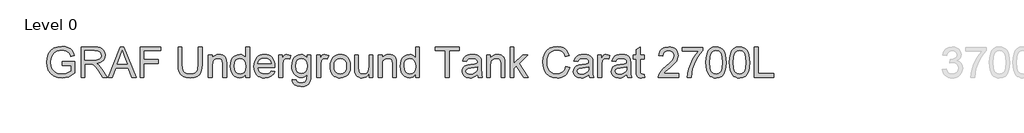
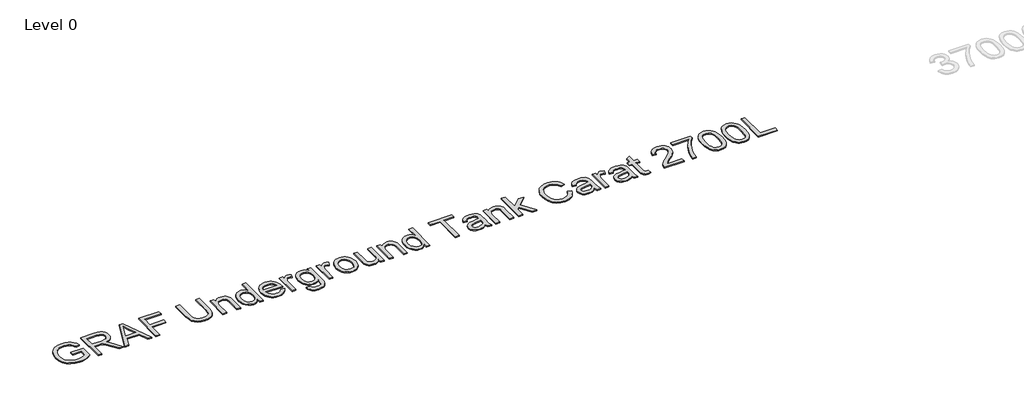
# One storey, part 17 of 19: 1 proxy.
"""IFC4 building model written with IfcOpenShell, lengths in millimetres."""

from ifc_helpers import new_model, si_unit, origin, origin_with_axes, place, context, project, spatial, polyline, outline, extrude, element, save

model = new_model("IFC4")

# Units and contexts
model_context = context("Model", 3, world=origin())
ifc_project = project(units=[si_unit("LENGTHUNIT", "METRE", prefix="MILLI")], contexts=[model_context])

# Site, building, storey
site = spatial("IfcSite", under=ifc_project)
building = spatial("IfcBuilding", under=site)
storey = spatial("IfcBuildingStorey", under=building, Name="Level 0", Elevation=0.0)

# Proxy
placement = place(None, origin())
element("IfcBuildingElementProxy", 1, Name="300mm Arial", ObjectType="300mm Arial", at=placement, inside=storey, context=model_context, shape_type="SweptSolid", body=[
    extrude(outline(polyline([(-14980.9940387, 9416.7454403), (-14980.9940387, 9454.4165566), (-14858.5629107, 9454.4165566), (-14858.5629107, 9341.7710897), (-14888.3153671, 9321.0777274), (-14919.0059225, 9306.2336889), (-14950.5610007, 9297.2941564), (-14982.9070251, 9294.3143123), (-15025.1674693, 9299.050793), (-15063.3628175, 9313.260235), (-15095.0926395, 9336.4459978), (-15117.9565055, 9368.1114405), (-15131.7796715, 9406.0952565), (-15136.3873935, 9448.2361391), (-15131.7980656, 9490.6805243), (-15118.0300819, 9530.1634594), (-15095.6536596, 9563.282036), (-15065.2390156, 9586.6333457), (-15028.1932987, 9600.4841028), (-14985.9236575, 9605.1010218), (-14954.8928112, 9602.4246803), (-14926.9889618, 9594.3956557), (-14903.4904994, 9581.5933623), (-14885.6758138, 9564.5972141), (-14872.4964413, 9542.5886738), (-14862.9039183, 9514.7492038), (-14897.6319786, 9504.9635427), (-14905.3850917, 9524.8199734), (-14914.8120678, 9539.8019677), (-14927.2832674, 9551.0959449), (-14944.169051, 9559.8883246), (-14964.3013932, 9565.5445103), (-14986.5122687, 9567.4299055), (-15012.5123287, 9565.3973575), (-15034.7415982, 9559.2997134), (-15053.1173039, 9549.9003284), (-15067.5566722, 9537.9625577), (-15086.9440533, 9508.9366683), (-15095.7732212, 9480.49939), (-15098.7162772, 9449.7812434), (-15095.175413, 9413.7563991), (-15084.5528204, 9384.1143073), (-15067.1703961, 9361.0665003), (-15043.3500369, 9344.8245102), (-15015.4737787, 9335.195199), (-14985.9236575, 9331.9854286), (-14959.831627, 9334.4042527), (-14934.3833899, 9341.6607251), (-14912.2828791, 9351.6579183), (-14896.234027, 9362.298905), (-14896.234027, 9416.7454403), (-14980.9940387, 9416.7454403)])), origin_with_axes(), (0.0, 0.0, 1.0), 10.0),
    extrude(outline(polyline([(-14797.3473467, 9299.0232018), (-14797.3473467, 9600.3921323), (-14667.4850024, 9600.3921323), (-14632.5821982, 9598.3595842), (-14607.1891434, 9592.2619402), (-14588.6294968, 9581.0047511), (-14574.2269167, 9563.4935682), (-14564.9838815, 9541.7793334), (-14561.9028698, 9517.912989), (-14567.0072325, 9488.2249119), (-14582.3203206, 9463.6136065), (-14593.9200997, 9453.5842236), (-14608.3019865, 9445.5689946), (-14645.4120827, 9435.5809984), (-14624.0013506, 9419.467767), (-14593.467145, 9380.6930048), (-14543.2144645, 9299.0232018), (-14586.9924219, 9299.0232018), (-14626.2086426, 9361.4895646), (-14654.5355562, 9402.8395009), (-14674.4379722, 9422.3740348), (-14692.3538253, 9429.5477337), (-14714.2060158, 9430.8721089), (-14759.6762304, 9430.8721089), (-14759.6762304, 9299.0232018), (-14797.3473467, 9299.0232018)]), holes=[polyline([(-14759.6762304, 9468.5432252), (-14675.3576771, 9468.5432252), (-14651.1418448, 9469.8767974), (-14632.3522719, 9473.8775141), (-14618.2072092, 9480.8120897), (-14607.9249074, 9490.9472387), (-14601.6617165, 9503.2069062), (-14599.5739861, 9516.5150374), (-14603.5563087, 9534.890743), (-14615.5032765, 9549.6979933), (-14636.058683, 9559.4652603), (-14665.8663217, 9562.721016), (-14759.6762304, 9562.721016), (-14759.6762304, 9468.5432252)])]), origin_with_axes(), (0.0, 0.0, 1.0), 10.0),
    extrude(outline(polyline([(-14531.0743586, 9299.0232018), (-14410.7769462, 9600.3921323), (-14378.6976362, 9600.3921323), (-14258.4002238, 9299.0232018), (-14298.2050557, 9299.0232018), (-14332.7123868, 9393.2009926), (-14456.835772, 9393.2009926), (-14491.2695268, 9299.0232018), (-14531.0743586, 9299.0232018)]), holes=[polyline([(-14443.003409, 9430.8721089), (-14346.4711735, 9430.8721089), (-14373.6208647, 9504.9635427), (-14394.7372912, 9562.721016), (-14413.499273, 9511.4382658), (-14443.003409, 9430.8721089)])]), origin_with_axes(), (0.0, 0.0, 1.0), 10.0),
    extrude(outline(polyline([(-14218.1539335, 9299.0232018), (-14218.1539335, 9600.3921323), (-14015.6716834, 9600.3921323), (-14015.6716834, 9562.721016), (-14180.4828172, 9562.721016), (-14180.4828172, 9473.2521147), (-14039.2161311, 9473.2521147), (-14039.2161311, 9435.5809984), (-14180.4828172, 9435.5809984), (-14180.4828172, 9299.0232018), (-14218.1539335, 9299.0232018)])), origin_with_axes(), (0.0, 0.0, 1.0), 10.0),
    extrude(outline(polyline([(-13648.3782994, 9600.3921323), (-13610.7071831, 9600.3921323), (-13610.7071831, 9426.5311014), (-13613.263963, 9385.8157615), (-13620.9343026, 9354.4630185), (-13635.2633063, 9330.2747773), (-13657.7960785, 9311.0529431), (-13688.5878015, 9298.49897), (-13727.6936576, 9294.3143123), (-13765.944188, 9297.956344), (-13796.5243789, 9308.8824393), (-13819.4434272, 9326.715519), (-13834.71053, 9351.0785041), (-13843.2913775, 9383.7556224), (-13846.15166, 9426.5311014), (-13846.15166, 9600.3921323), (-13808.4805437, 9600.3921323), (-13808.4805437, 9427.8554765), (-13806.6227396, 9394.0011359), (-13801.0493274, 9370.4290971), (-13790.9509666, 9354.1043335), (-13775.5183169, 9341.9918189), (-13755.3951718, 9334.4870262), (-13731.2253247, 9331.9854286), (-13692.9104149, 9336.9334414), (-13678.5676156, 9343.1184575), (-13667.4345868, 9351.7774799), (-13659.097461, 9363.954374), (-13653.1423712, 9380.6930048), (-13648.3782994, 9427.8554765), (-13648.3782994, 9600.3921323)])), origin_with_axes(), (0.0, 0.0, 1.0), 10.0),
    extrude(outline(polyline([(-13549.4916191, 9299.0232018), (-13549.4916191, 9520.3410101), (-13511.8205028, 9520.3410101), (-13511.8205028, 9489.4389225), (-13498.7331008, 9505.018725), (-13483.0153426, 9516.1471554), (-13464.6672281, 9522.8242136), (-13443.6887573, 9525.0498997), (-13425.1199136, 9523.2564749), (-13408.1145684, 9517.8762008), (-13393.9327174, 9509.5804618), (-13383.8343567, 9499.0406426), (-13372.5403794, 9471.3391284), (-13370.5538166, 9434.9188108), (-13370.5538166, 9299.0232018), (-13408.224933, 9299.0232018), (-13408.224933, 9429.8420393), (-13412.5659405, 9463.1721481), (-13418.5716141, 9473.0957649), (-13427.9066197, 9480.7936956), (-13439.8719816, 9485.7325114), (-13453.768724, 9487.3787834), (-13475.8324466, 9483.6815693), (-13494.6404136, 9472.5899271), (-13502.1567026, 9463.5354315), (-13507.5254805, 9451.1608009), (-13511.8205028, 9416.4511347), (-13511.8205028, 9299.0232018), (-13549.4916191, 9299.0232018)])), origin_with_axes(), (0.0, 0.0, 1.0), 10.0),
    extrude(outline(polyline([(-13182.1982351, 9299.0232018), (-13182.1982351, 9334.5606026), (-13193.4692197, 9316.9528506), (-13207.1222403, 9304.3758849), (-13223.1572968, 9296.8297054), (-13241.5743891, 9294.3143123), (-13265.9281772, 9297.956344), (-13288.2218261, 9308.8824393), (-13307.0941725, 9326.3292429), (-13321.1840529, 9349.5333998), (-13329.9580385, 9377.5568107), (-13332.8827003, 9409.4613768), (-13330.1879647, 9440.9704697), (-13322.1037579, 9469.426142), (-13308.6392769, 9493.209713), (-13289.8037187, 9510.7025018), (-13267.0226262, 9521.4630502), (-13241.7215419, 9525.0498997), (-13223.290654, 9522.4839227), (-13206.9934816, 9514.785992), (-13193.1795127, 9502.986177), (-13182.1982351, 9488.1145473), (-13182.1982351, 9600.3921323), (-13144.5271188, 9600.3921323), (-13144.5271188, 9299.0232018), (-13182.1982351, 9299.0232018)]), holes=[polyline([(-13295.211584, 9409.6085296), (-13290.962547, 9375.5334598), (-13278.2154359, 9351.2992333), (-13259.6925774, 9336.8138798), (-13238.1162984, 9331.9854286), (-13216.5492164, 9336.5931506), (-13198.4954075, 9350.4163165), (-13186.2725282, 9373.7124439), (-13182.1982351, 9406.73905), (-13186.3461046, 9442.8466678), (-13198.7897131, 9467.8810376), (-13217.3033745, 9482.5043469), (-13239.6614028, 9487.3787834), (-13261.458411, 9482.697485), (-13279.3190818, 9468.6535898), (-13291.2384585, 9444.529728), (-13295.211584, 9409.6085296)])]), origin_with_axes(), (0.0, 0.0, 1.0), 10.0),
    extrude(outline(polyline([(-12933.068548, 9364.9476554), (-12896.1331957, 9360.2387658), (-12909.4413268, 9332.4084929), (-12930.677315, 9311.6047661), (-12959.3629136, 9298.6369257), (-12995.019876, 9294.3143123), (-13018.3941782, 9296.1790141), (-13039.2208977, 9301.7731197), (-13057.5000343, 9311.0966291), (-13073.2315881, 9324.1495421), (-13085.8821303, 9340.5685754), (-13094.9182318, 9359.9904455), (-13100.3398927, 9382.4151523), (-13102.147113, 9407.842696), (-13100.3214986, 9434.1324631), (-13094.8446554, 9457.3044302), (-13085.7165834, 9477.3585975), (-13072.9372826, 9494.2949649), (-13057.2471155, 9507.7502488), (-13039.3864446, 9517.361166), (-13019.35527, 9523.1277162), (-12997.1535915, 9525.0498997), (-12975.6669838, 9523.1323148), (-12956.2359166, 9517.3795601), (-12938.8603901, 9507.7916356), (-12923.5404043, 9494.3685413), (-12911.0347157, 9477.4689621), (-12902.102081, 9457.451583), (-12896.7425002, 9434.3164041), (-12894.9559733, 9408.0634252), (-12895.1767025, 9397.9098821), (-13064.4759967, 9397.9098821), (-13057.9552883, 9369.7117272), (-13042.8077471, 9348.9815768), (-13020.9463596, 9336.2344656), (-12994.284112, 9331.9854286), (-12974.2345432, 9333.9535973), (-12957.3487597, 9339.8581033), (-12943.6267612, 9350.0668287), (-12933.068548, 9364.9476554)]), holes=[polyline([(-13064.4759967, 9435.5809984), (-12932.6270896, 9435.5809984), (-12937.7222552, 9455.4834144), (-12947.7102514, 9469.7204476), (-12969.6728065, 9482.9641994), (-12997.3007443, 9487.3787834), (-13022.6937991, 9483.8563132), (-13043.6906639, 9473.2889029), (-13058.2863821, 9456.8169866), (-13064.4759967, 9435.5809984)])]), origin_with_axes(), (0.0, 0.0, 1.0), 10.0),
    extrude(outline(polyline([(-12857.284857, 9299.0232018), (-12857.284857, 9520.3410101), (-12824.3226302, 9520.3410101), (-12824.3226302, 9487.5995125), (-12812.1457362, 9506.5822235), (-12800.9253353, 9517.7658362), (-12789.6681463, 9523.2288838), (-12777.3808876, 9525.0498997), (-12758.6189059, 9522.1436319), (-12739.5626185, 9513.4248286), (-12752.1441828, 9479.6532615), (-12765.3879346, 9485.4474029), (-12778.6316864, 9487.3787834), (-12789.8796784, 9485.5209793), (-12799.9320539, 9479.947567), (-12808.053049, 9471.081611), (-12813.5068996, 9459.3461753), (-12818.0870304, 9438.3033252), (-12819.6137407, 9415.3474887), (-12819.6137407, 9299.0232018), (-12857.284857, 9299.0232018)])), origin_with_axes(), (0.0, 0.0, 1.0), 10.0),
    extrude(outline(polyline([(-12725.4359499, 9280.1876437), (-12687.7648336, 9275.4787541), (-12683.6077671, 9263.7065303), (-12675.5511514, 9255.6131264), (-12659.7138315, 9249.3223443), (-12638.983681, 9247.2254169), (-12616.8739731, 9249.5982558), (-12600.4296479, 9256.7167724), (-12589.0253061, 9268.1211142), (-12582.0355482, 9283.3514288), (-12579.4603742, 9327.2765391), (-12591.9959532, 9314.915704), (-12605.9846661, 9306.0865361), (-12621.4265128, 9300.7890354), (-12638.3214935, 9299.0232018), (-12658.9757682, 9301.0787425), (-12677.1606351, 9307.2453644), (-12692.8760941, 9317.5230677), (-12706.1221452, 9331.9118522), (-12716.6320739, 9349.1747148), (-12724.1391659, 9368.0746523), (-12728.6434211, 9388.6116647), (-12730.1448394, 9410.785752), (-12727.4501038, 9441.2003959), (-12719.365897, 9469.1686246), (-12706.1773275, 9492.8694221), (-12688.1695038, 9510.4817726), (-12665.9586283, 9521.4078679), (-12640.1609034, 9525.0498997), (-12622.5439544, 9522.9897605), (-12606.5548832, 9516.809343), (-12592.1936898, 9506.5086471), (-12579.4603742, 9492.0876729), (-12579.4603742, 9520.3410101), (-12541.7892579, 9520.3410101), (-12541.7892579, 9329.2631018), (-12544.3644319, 9285.1448536), (-12552.0899538, 9256.091373), (-12565.398085, 9236.8235535), (-12584.7210868, 9222.0622884), (-12609.6358949, 9212.6812976), (-12639.719445, 9209.5543006), (-12674.7694021, 9213.9596875), (-12702.3697488, 9227.1758482), (-12712.7647144, 9237.0971657), (-12720.0740698, 9249.2395708), (-12724.297815, 9263.6030635), (-12725.4359499, 9280.1876437)]), holes=[polyline([(-12692.4737231, 9413.3609259), (-12688.4546123, 9378.8076095), (-12676.39728, 9355.0516297), (-12658.2698946, 9341.283646), (-12636.0406251, 9336.6943181), (-12613.9769024, 9341.2560549), (-12595.7575466, 9354.9412651), (-12583.5346673, 9378.3937423), (-12579.4603742, 9412.2572799), (-12583.654229, 9444.9160041), (-12596.2357932, 9468.4328606), (-12614.7218635, 9482.6423027), (-12636.6292363, 9487.3787834), (-12658.1411359, 9482.7158791), (-12676.1765508, 9468.7271662), (-12688.39943, 9445.5597976), (-12692.4737231, 9413.3609259)])]), origin_with_axes(), (0.0, 0.0, 1.0), 10.0),
    extrude(outline(polyline([(-12485.2825835, 9299.0232018), (-12485.2825835, 9520.3410101), (-12452.3203567, 9520.3410101), (-12452.3203567, 9487.5995125), (-12440.1434626, 9506.5822235), (-12428.9230618, 9517.7658362), (-12417.6658727, 9523.2288838), (-12405.3786141, 9525.0498997), (-12386.6166324, 9522.1436319), (-12367.560345, 9513.4248286), (-12380.1419092, 9479.6532615), (-12393.3856611, 9485.4474029), (-12406.6294129, 9487.3787834), (-12417.8774049, 9485.5209793), (-12427.9297804, 9479.947567), (-12436.0507755, 9471.081611), (-12441.504626, 9459.3461753), (-12446.0847569, 9438.3033252), (-12447.6114672, 9415.3474887), (-12447.6114672, 9299.0232018), (-12485.2825835, 9299.0232018)])), origin_with_axes(), (0.0, 0.0, 1.0), 10.0),
    extrude(outline(polyline([(-12353.4336764, 9409.682106), (-12351.3965298, 9438.3447119), (-12345.2850902, 9463.0433894), (-12335.0993575, 9483.7781383), (-12320.8393316, 9500.5489588), (-12306.4827368, 9511.2681204), (-12290.6362198, 9518.9246644), (-12273.2997808, 9523.5185909), (-12254.4734197, 9525.0498997), (-12233.6903862, 9523.1851978), (-12214.8985141, 9517.5910922), (-12198.0978032, 9508.2675829), (-12183.2882536, 9495.2146698), (-12171.2010308, 9478.8738115), (-12162.5673002, 9459.6864662), (-12157.3870619, 9437.6526339), (-12155.6603158, 9412.7723147), (-12158.7137363, 9374.7149223), (-12167.873998, 9345.7442152), (-12182.8743864, 9324.0483745), (-12203.448187, 9307.8155815), (-12227.8847485, 9297.6896296), (-12254.4734197, 9294.3143123), (-12275.5599558, 9296.1721164), (-12294.5265719, 9301.7455286), (-12311.373268, 9311.034549), (-12326.1000441, 9324.0391775), (-12338.0585082, 9340.538685), (-12346.6002683, 9360.3123422), (-12351.7253244, 9383.3601492), (-12353.4336764, 9409.682106)]), holes=[polyline([(-12315.7625601, 9409.7556824), (-12311.4031584, 9375.6622185), (-12298.3249535, 9351.3728097), (-12278.6432668, 9336.8322739), (-12254.4734197, 9331.9854286), (-12230.4139372, 9336.859865), (-12210.7690387, 9351.4831743), (-12197.6908337, 9376.0944798), (-12193.3314321, 9410.9329048), (-12197.7184249, 9444.0330873), (-12210.8794033, 9467.9914022), (-12230.5518929, 9482.5319381), (-12254.4734197, 9487.3787834), (-12278.6432668, 9482.5503322), (-12298.3249535, 9468.0649786), (-12311.4031584, 9443.8307522), (-12315.7625601, 9409.7556824)])]), origin_with_axes(), (0.0, 0.0, 1.0), 10.0),
    extrude(outline(polyline([(-11972.0136238, 9299.0232018), (-11972.0136238, 9337.0622001), (-11985.6436517, 9318.3599992), (-12001.5177598, 9305.0012842), (-12019.6359481, 9296.9860553), (-12039.9982165, 9294.3143123), (-12058.346331, 9296.1905105), (-12075.4252526, 9301.819105), (-12089.7542563, 9310.2803909), (-12099.8526171, 9320.6546631), (-12111.073018, 9348.3929656), (-12113.2803099, 9383.4153315), (-12113.2803099, 9520.3410101), (-12075.6091936, 9520.3410101), (-12075.6091936, 9401.1472437), (-12073.3283253, 9362.7403634), (-12067.8376865, 9349.9288729), (-12058.4291045, 9340.1891971), (-12045.7279786, 9334.0363707), (-12030.3597082, 9331.9854286), (-12014.1085211, 9334.082356), (-11998.9057976, 9340.3731381), (-11986.3702186, 9350.2783608), (-11978.1204649, 9363.21861), (-11973.5403341, 9380.9413251), (-11972.0136238, 9405.1939456), (-11972.0136238, 9520.3410101), (-11934.3425075, 9520.3410101), (-11934.3425075, 9299.0232018), (-11972.0136238, 9299.0232018)])), origin_with_axes(), (0.0, 0.0, 1.0), 10.0),
    extrude(outline(polyline([(-11882.5447226, 9299.0232018), (-11882.5447226, 9520.3410101), (-11844.8736063, 9520.3410101), (-11844.8736063, 9489.4389225), (-11831.7862043, 9505.018725), (-11816.068446, 9516.1471554), (-11797.7203315, 9522.8242136), (-11776.7418607, 9525.0498997), (-11758.173017, 9523.2564749), (-11741.1676718, 9517.8762008), (-11726.9858209, 9509.5804618), (-11716.8874601, 9499.0406426), (-11705.5934829, 9471.3391284), (-11703.6069201, 9434.9188108), (-11703.6069201, 9299.0232018), (-11741.2780364, 9299.0232018), (-11741.2780364, 9429.8420393), (-11745.619044, 9463.1721481), (-11751.6247175, 9473.0957649), (-11760.9597232, 9480.7936956), (-11772.925085, 9485.7325114), (-11786.8218274, 9487.3787834), (-11808.8855501, 9483.6815693), (-11827.6935171, 9472.5899271), (-11835.2098061, 9463.5354315), (-11840.578584, 9451.1608009), (-11844.8736063, 9416.4511347), (-11844.8736063, 9299.0232018), (-11882.5447226, 9299.0232018)])), origin_with_axes(), (0.0, 0.0, 1.0), 10.0),
    extrude(outline(polyline([(-11515.2513386, 9299.0232018), (-11515.2513386, 9334.5606026), (-11526.5223232, 9316.9528506), (-11540.1753437, 9304.3758849), (-11556.2104002, 9296.8297054), (-11574.6274926, 9294.3143123), (-11598.9812807, 9297.956344), (-11621.2749296, 9308.8824393), (-11640.1472759, 9326.3292429), (-11654.2371564, 9349.5333998), (-11663.0111419, 9377.5568107), (-11665.9358038, 9409.4613768), (-11663.2410682, 9440.9704697), (-11655.1568613, 9469.426142), (-11641.6923803, 9493.209713), (-11622.8568222, 9510.7025018), (-11600.0757296, 9521.4630502), (-11574.7746454, 9525.0498997), (-11556.3437574, 9522.4839227), (-11540.046585, 9514.785992), (-11526.2326161, 9502.986177), (-11515.2513386, 9488.1145473), (-11515.2513386, 9600.3921323), (-11477.5802223, 9600.3921323), (-11477.5802223, 9299.0232018), (-11515.2513386, 9299.0232018)]), holes=[polyline([(-11628.2646875, 9409.6085296), (-11624.0156504, 9375.5334598), (-11611.2685393, 9351.2992333), (-11592.7456809, 9336.8138798), (-11571.1694018, 9331.9854286), (-11549.6023199, 9336.5931506), (-11531.548511, 9350.4163165), (-11519.3256317, 9373.7124439), (-11515.2513386, 9406.73905), (-11519.3992081, 9442.8466678), (-11531.8428166, 9467.8810376), (-11550.356478, 9482.5043469), (-11572.7145062, 9487.3787834), (-11594.5115144, 9482.697485), (-11612.3721853, 9468.6535898), (-11624.2915619, 9444.529728), (-11628.2646875, 9409.6085296)])]), origin_with_axes(), (0.0, 0.0, 1.0), 10.0),
    extrude(outline(polyline([(-11223.3001872, 9299.0232018), (-11223.3001872, 9562.721016), (-11322.1868675, 9562.721016), (-11322.1868675, 9600.3921323), (-11086.7423906, 9600.3921323), (-11086.7423906, 9562.721016), (-11185.6290709, 9562.721016), (-11185.6290709, 9299.0232018), (-11223.3001872, 9299.0232018)])), origin_with_axes(), (0.0, 0.0, 1.0), 10.0),
    extrude(outline(polyline([(-10907.8045881, 9327.2765391), (-10925.8032148, 9311.8438894), (-10944.3352703, 9301.7455286), (-10963.823819, 9296.1721164), (-10984.6919251, 9294.3143123), (-11016.1734269, 9298.7840785), (-11039.3959778, 9312.1933772), (-11053.7157845, 9332.5556457), (-11058.4890534, 9357.8843211), (-11056.6864316, 9373.5009117), (-11051.2785663, 9387.6827627), (-11042.936842, 9399.8228685), (-11032.3326435, 9409.314224), (-11005.9555045, 9421.675059), (-10973.3611597, 9427.3404417), (-10934.8439148, 9433.3001301), (-10908.0253173, 9440.289888), (-10907.8045881, 9448.6775975), (-10910.3981562, 9465.4898046), (-10918.1788604, 9476.4894763), (-10935.5796788, 9484.6564566), (-10959.8231023, 9487.3787834), (-10982.263904, 9485.5669645), (-10997.935677, 9480.131508), (-11008.6226489, 9470.0791325), (-11016.1090475, 9454.4165566), (-11053.7801638, 9459.1254461), (-11047.2410614, 9479.7268379), (-11037.4829914, 9495.9136456), (-11023.5954461, 9508.2928748), (-11004.6679175, 9517.4715306), (-10981.5189429, 9523.1553074), (-10954.9670599, 9525.0498997), (-10929.5004288, 9523.3760366), (-10909.3129043, 9518.3544473), (-10894.0917868, 9510.8036694), (-10883.5243765, 9501.5422402), (-10876.5162244, 9490.0919131), (-10871.9728818, 9475.9744415), (-10870.1334718, 9443.0122147), (-10870.1334718, 9396.1440485), (-10868.2204855, 9330.6978416), (-10860.7156928, 9299.0232018), (-10898.3868091, 9299.0232018), (-10907.8045881, 9327.2765391)]), holes=[polyline([(-10907.8045881, 9402.6187717), (-10968.5786937, 9391.067277), (-11000.9890975, 9384.9604359), (-11015.6675891, 9375.027622), (-11020.8179371, 9360.5330714), (-11018.0128368, 9349.3310647), (-11009.5975362, 9340.1524089), (-10995.7559761, 9334.0271737), (-10976.6720976, 9331.9854286), (-10956.4385879, 9334.2387058), (-10938.5595229, 9340.9985375), (-10924.0649723, 9350.9589425), (-10913.9850057, 9362.8139398), (-10909.5152394, 9375.027622), (-10908.0253173, 9391.9501938), (-10907.8045881, 9402.6187717)])]), origin_with_axes(), (0.0, 0.0, 1.0), 10.0),
    extrude(outline(polyline([(-10818.3356869, 9299.0232018), (-10818.3356869, 9520.3410101), (-10780.6645706, 9520.3410101), (-10780.6645706, 9489.4389225), (-10767.5771686, 9505.018725), (-10751.8594104, 9516.1471554), (-10733.5112959, 9522.8242136), (-10712.5328251, 9525.0498997), (-10693.9639814, 9523.2564749), (-10676.9586362, 9517.8762008), (-10662.7767853, 9509.5804618), (-10652.6784245, 9499.0406426), (-10641.3844472, 9471.3391284), (-10639.3978845, 9434.9188108), (-10639.3978845, 9299.0232018), (-10677.0690008, 9299.0232018), (-10677.0690008, 9429.8420393), (-10681.4100083, 9463.1721481), (-10687.4156819, 9473.0957649), (-10696.7506875, 9480.7936956), (-10708.7160494, 9485.7325114), (-10722.6127918, 9487.3787834), (-10744.6765144, 9483.6815693), (-10763.4844814, 9472.5899271), (-10771.0007704, 9463.5354315), (-10776.3695483, 9451.1608009), (-10780.6645706, 9416.4511347), (-10780.6645706, 9299.0232018), (-10818.3356869, 9299.0232018)])), origin_with_axes(), (0.0, 0.0, 1.0), 10.0),
    extrude(outline(polyline([(-10587.6000995, 9299.0232018), (-10587.6000995, 9600.3921323), (-10549.9289832, 9600.3921323), (-10549.9289832, 9438.450478), (-10465.4632771, 9520.3410101), (-10413.3711866, 9520.3410101), (-10498.8669623, 9437.4204084), (-10408.6622971, 9299.0232018), (-10452.6609837, 9299.0232018), (-10525.8695007, 9411.2272104), (-10549.9289832, 9387.9034919), (-10549.9289832, 9299.0232018), (-10587.6000995, 9299.0232018)])), origin_with_axes(), (0.0, 0.0, 1.0), 10.0),
    extrude(outline(polyline([(-10041.3689131, 9406.1504388), (-10003.6977968, 9396.4383541), (-10011.1520057, 9373.0111688), (-10021.0802211, 9352.5408351), (-10033.4824428, 9335.0273528), (-10048.358671, 9320.4707221), (-10065.3732133, 9309.0272928), (-10084.1903773, 9300.8534147), (-10104.8101632, 9295.9490879), (-10127.2325708, 9294.3143123), (-10170.9277547, 9299.2623251), (-10205.6282239, 9314.1063636), (-10232.2260922, 9338.331393), (-10251.6134733, 9371.4223785), (-10263.4500765, 9410.3258995), (-10267.3956109, 9451.9885354), (-10262.9350417, 9495.9320397), (-10249.5533342, 9533.8790675), (-10227.949464, 9564.6248053), (-10198.822407, 9586.9644394), (-10164.2782877, 9600.5668762), (-10126.4232304, 9605.1010218), (-10085.1192794, 9599.233304), (-10067.1505432, 9591.8986567), (-10050.9706332, 9581.6301505), (-10036.8462638, 9568.6990984), (-10025.0441496, 9553.3768133), (-10008.4066863, 9515.5585442), (-10046.0778026, 9506.5822235), (-10059.1376135, 9534.0538115), (-10076.9798902, 9552.8985667), (-10099.8253621, 9563.7970708), (-10127.8947584, 9567.4299055), (-10160.2499798, 9563.4015977), (-10186.829454, 9551.3166741), (-10206.9985844, 9532.4443278), (-10220.1227746, 9508.0537515), (-10227.3240646, 9480.4809959), (-10229.7244946, 9452.0621118), (-10226.8826062, 9417.2604751), (-10218.356941, 9387.1677279), (-10203.8256022, 9362.9335014), (-10182.966693, 9345.707427), (-10157.9599144, 9335.4159282), (-10130.9849671, 9331.9854286), (-10099.5402536, 9336.6575299), (-10073.3378585, 9350.6738339), (-10053.5550042, 9373.8871878), (-10041.3689131, 9406.1504388)])), origin_with_axes(), (0.0, 0.0, 1.0), 10.0),
    extrude(outline(polyline([(-9815.3422153, 9327.2765391), (-9833.3408419, 9311.8438894), (-9851.8728974, 9301.7455286), (-9871.3614461, 9296.1721164), (-9892.2295523, 9294.3143123), (-9923.711054, 9298.7840785), (-9946.9336049, 9312.1933772), (-9961.2534116, 9332.5556457), (-9966.0266805, 9357.8843211), (-9964.2240587, 9373.5009117), (-9958.8161934, 9387.6827627), (-9950.4744691, 9399.8228685), (-9939.8702706, 9409.314224), (-9913.4931316, 9421.675059), (-9880.8987868, 9427.3404417), (-9842.3815419, 9433.3001301), (-9815.5629445, 9440.289888), (-9815.3422153, 9448.6775975), (-9817.9357833, 9465.4898046), (-9825.7164875, 9476.4894763), (-9843.1173059, 9484.6564566), (-9867.3607294, 9487.3787834), (-9889.8015311, 9485.5669645), (-9905.4733041, 9480.131508), (-9916.160276, 9470.0791325), (-9923.6466746, 9454.4165566), (-9961.3177909, 9459.1254461), (-9954.7786885, 9479.7268379), (-9945.0206186, 9495.9136456), (-9931.1330732, 9508.2928748), (-9912.2055446, 9517.4715306), (-9889.05657, 9523.1553074), (-9862.504687, 9525.0498997), (-9837.0380559, 9523.3760366), (-9816.8505314, 9518.3544473), (-9801.6294139, 9510.8036694), (-9791.0620036, 9501.5422402), (-9784.0538516, 9490.0919131), (-9779.5105089, 9475.9744415), (-9777.671099, 9443.0122147), (-9777.671099, 9396.1440485), (-9775.7581126, 9330.6978416), (-9768.2533199, 9299.0232018), (-9805.9244362, 9299.0232018), (-9815.3422153, 9327.2765391)]), holes=[polyline([(-9815.3422153, 9402.6187717), (-9876.1163209, 9391.067277), (-9908.5267246, 9384.9604359), (-9923.2052162, 9375.027622), (-9928.3555642, 9360.5330714), (-9925.550464, 9349.3310647), (-9917.1351633, 9340.1524089), (-9903.2936033, 9334.0271737), (-9884.2097248, 9331.9854286), (-9863.976215, 9334.2387058), (-9846.0971501, 9340.9985375), (-9831.6025994, 9350.9589425), (-9821.5226328, 9362.8139398), (-9817.0528665, 9375.027622), (-9815.5629445, 9391.9501938), (-9815.3422153, 9402.6187717)])]), origin_with_axes(), (0.0, 0.0, 1.0), 10.0),
    extrude(outline(polyline([(-9725.873314, 9299.0232018), (-9725.873314, 9520.3410101), (-9692.9110873, 9520.3410101), (-9692.9110873, 9487.5995125), (-9680.7341932, 9506.5822235), (-9669.5137924, 9517.7658362), (-9658.2566033, 9523.2288838), (-9645.9693447, 9525.0498997), (-9627.2073629, 9522.1436319), (-9608.1510756, 9513.4248286), (-9620.7326398, 9479.6532615), (-9633.9763916, 9485.4474029), (-9647.2201435, 9487.3787834), (-9658.4681355, 9485.5209793), (-9668.520511, 9479.947567), (-9676.641506, 9471.081611), (-9682.0953566, 9459.3461753), (-9686.6754874, 9438.3033252), (-9688.2021977, 9415.3474887), (-9688.2021977, 9299.0232018), (-9725.873314, 9299.0232018)])), origin_with_axes(), (0.0, 0.0, 1.0), 10.0),
    extrude(outline(polyline([(-9443.3399417, 9327.2765391), (-9461.3385684, 9311.8438894), (-9479.8706239, 9301.7455286), (-9499.3591726, 9296.1721164), (-9520.2272787, 9294.3143123), (-9551.7087805, 9298.7840785), (-9574.9313314, 9312.1933772), (-9589.2511381, 9332.5556457), (-9594.024407, 9357.8843211), (-9592.2217852, 9373.5009117), (-9586.8139199, 9387.6827627), (-9578.4721956, 9399.8228685), (-9567.8679971, 9409.314224), (-9541.4908581, 9421.675059), (-9508.8965133, 9427.3404417), (-9470.3792684, 9433.3001301), (-9443.5606709, 9440.289888), (-9443.3399417, 9448.6775975), (-9445.9335098, 9465.4898046), (-9453.714214, 9476.4894763), (-9471.1150324, 9484.6564566), (-9495.3584559, 9487.3787834), (-9517.7992576, 9485.5669645), (-9533.4710306, 9480.131508), (-9544.1580025, 9470.0791325), (-9551.6444011, 9454.4165566), (-9589.3155174, 9459.1254461), (-9582.776415, 9479.7268379), (-9573.018345, 9495.9136456), (-9559.1307997, 9508.2928748), (-9540.2032711, 9517.4715306), (-9517.0542965, 9523.1553074), (-9490.5024135, 9525.0498997), (-9465.0357824, 9523.3760366), (-9444.8482579, 9518.3544473), (-9429.6271404, 9510.8036694), (-9419.0597301, 9501.5422402), (-9412.051578, 9490.0919131), (-9407.5082354, 9475.9744415), (-9405.6688254, 9443.0122147), (-9405.6688254, 9396.1440485), (-9403.7558391, 9330.6978416), (-9396.2510464, 9299.0232018), (-9433.9221627, 9299.0232018), (-9443.3399417, 9327.2765391)]), holes=[polyline([(-9443.3399417, 9402.6187717), (-9504.1140473, 9391.067277), (-9536.5244511, 9384.9604359), (-9551.2029427, 9375.027622), (-9556.3532907, 9360.5330714), (-9553.5481904, 9349.3310647), (-9545.1328898, 9340.1524089), (-9531.2913297, 9334.0271737), (-9512.2074512, 9331.9854286), (-9491.9739415, 9334.2387058), (-9474.0948765, 9340.9985375), (-9459.6003259, 9350.9589425), (-9449.5203593, 9362.8139398), (-9445.050593, 9375.027622), (-9443.5606709, 9391.9501938), (-9443.3399417, 9402.6187717)])]), origin_with_axes(), (0.0, 0.0, 1.0), 10.0),
    extrude(outline(polyline([(-9273.8199184, 9330.4403242), (-9269.1110288, 9297.9195558), (-9297.2907897, 9294.3143123), (-9315.3721897, 9295.8778108), (-9328.8550648, 9300.5683062), (-9338.3832085, 9307.7971874), (-9344.6004142, 9316.9758432), (-9348.0217168, 9332.7395867), (-9349.162151, 9359.723731), (-9349.162151, 9482.6698938), (-9377.4154882, 9482.6698938), (-9377.4154882, 9520.3410101), (-9349.162151, 9520.3410101), (-9349.162151, 9574.1253578), (-9311.4910347, 9596.2718539), (-9311.4910347, 9520.3410101), (-9273.8199184, 9520.3410101), (-9273.8199184, 9482.6698938), (-9311.4910347, 9482.6698938), (-9311.4910347, 9360.827377), (-9309.5044719, 9341.4032077), (-9303.066537, 9334.5238144), (-9290.2274553, 9331.9854286), (-9273.8199184, 9330.4403242)])), origin_with_axes(), (0.0, 0.0, 1.0), 10.0),
    extrude(outline(polyline([(-8934.7798716, 9336.6943181), (-8934.7798716, 9299.0232018), (-9132.5532322, 9299.0232018), (-9128.5065303, 9324.9956707), (-9119.2175099, 9345.2935598), (-9105.6242702, 9364.9844436), (-9085.9609775, 9385.5950323), (-9058.4617984, 9408.6520364), (-9017.8108379, 9444.7596542), (-8993.4202616, 9471.4127048), (-8981.2249735, 9493.0441661), (-8977.1598775, 9514.0870162), (-8980.9950473, 9532.9501655), (-8992.5005566, 9548.6311355), (-9010.1864836, 9559.1985459), (-9032.5629059, 9562.721016), (-9056.0613684, 9559.2813193), (-9074.3175124, 9548.9622293), (-9086.0989333, 9532.5730865), (-9090.1732264, 9510.923231), (-9127.8443427, 9515.6321206), (-9118.7116721, 9552.0708322), (-9110.1653135, 9566.6067695), (-9098.9656061, 9578.6870946), (-9085.3700671, 9588.1830486), (-9069.636214, 9594.9658728), (-9031.7535655, 9600.3921323), (-9011.5637418, 9598.8838161), (-8993.5950056, 9594.3588675), (-8977.8473569, 9586.8172866), (-8964.3207958, 9576.2590734), (-8953.4567806, 9563.465977), (-8945.6967698, 9549.2197467), (-8941.0407633, 9533.5203826), (-8939.4887611, 9516.3678846), (-8941.1626242, 9498.3508639), (-8946.1842135, 9480.6465428), (-8955.0961548, 9462.6387192), (-8968.4410742, 9443.7111905), (-8989.7138505, 9421.114039), (-9022.4093629, 9392.0973466), (-9065.7458619, 9355.8609701), (-9082.7420101, 9336.6943181), (-8934.7798716, 9336.6943181)])), origin_with_axes(), (0.0, 0.0, 1.0), 10.0),
    extrude(outline(polyline([(-8897.1087553, 9558.0121264), (-8897.1087553, 9595.6832427), (-8699.3353947, 9595.6832427), (-8699.3353947, 9565.2226135), (-8727.5243526, 9529.547257), (-8755.437399, 9484.17821), (-8780.0579015, 9433.2541448), (-8798.3692278, 9380.9137339), (-8807.3455485, 9341.7526956), (-8812.3487436, 9299.0232018), (-8850.0198599, 9299.0232018), (-8845.9455668, 9337.8531464), (-8835.0470627, 9384.0039427), (-8817.6186532, 9432.923051), (-8793.9546439, 9480.0579316), (-8766.326706, 9522.6678637), (-8737.006511, 9558.0121264), (-8897.1087553, 9558.0121264)])), origin_with_axes(), (0.0, 0.0, 1.0), 10.0),
    extrude(outline(polyline([(-8666.3731679, 9447.2796459), (-8663.6048559, 9495.5181725), (-8655.2999199, 9533.9894321), (-8641.5411333, 9563.282036), (-8622.4112695, 9583.9845953), (-8597.7723729, 9596.290248), (-8567.4864876, 9600.3921323), (-8544.2731337, 9597.9641111), (-8523.487801, 9590.6800476), (-8506.1053767, 9578.8250503), (-8493.1007482, 9562.6842278), (-8483.2782989, 9542.3955357), (-8475.4424124, 9518.0969299), (-8470.3104586, 9487.2408276), (-8468.5998073, 9447.2796459), (-8471.3405282, 9399.3170308), (-8479.5626908, 9360.9377416), (-8493.2387039, 9331.6175466), (-8512.3409765, 9310.8322139), (-8537.0350555, 9298.4437877), (-8567.4864876, 9294.3143123), (-8588.2350321, 9296.107737), (-8606.6291319, 9301.4880112), (-8622.6687869, 9310.4551348), (-8636.3539971, 9323.0091079), (-8649.4873843, 9345.7028285), (-8658.8683752, 9373.9791583), (-8664.4969697, 9407.8380975), (-8666.3731679, 9447.2796459)]), holes=[polyline([(-8628.7020516, 9447.3532223), (-8624.2874677, 9388.0966299), (-8618.7692377, 9367.8286312), (-8611.0437159, 9353.8008309), (-8591.3252409, 9337.4392792), (-8567.4864876, 9331.9854286), (-8543.6477343, 9337.4576733), (-8523.9292594, 9353.8744073), (-8516.2037375, 9367.9252003), (-8510.6855076, 9388.1886004), (-8506.2709236, 9447.3532223), (-8510.5383548, 9505.2762424), (-8515.8726437, 9525.4775625), (-8523.3406482, 9539.8387559), (-8543.0223349, 9557.0004509), (-8567.927946, 9562.721016), (-8591.5091819, 9557.6810326), (-8610.4551047, 9542.5610826), (-8618.438144, 9526.9260978), (-8624.1403149, 9505.8464595), (-8628.7020516, 9447.3532223)])]), origin_with_axes(), (0.0, 0.0, 1.0), 10.0),
    extrude(outline(polyline([(-8435.6375806, 9447.2796459), (-8432.8692685, 9495.5181725), (-8424.5643325, 9533.9894321), (-8410.8055459, 9563.282036), (-8391.6756821, 9583.9845953), (-8367.0367855, 9596.290248), (-8336.7509002, 9600.3921323), (-8313.5375464, 9597.9641111), (-8292.7522136, 9590.6800476), (-8275.3697894, 9578.8250503), (-8262.3651608, 9562.6842278), (-8252.5427116, 9542.3955357), (-8244.7068251, 9518.0969299), (-8239.5748712, 9487.2408276), (-8237.8642199, 9447.2796459), (-8240.6049408, 9399.3170308), (-8248.8271034, 9360.9377416), (-8262.5031166, 9331.6175466), (-8281.6053892, 9310.8322139), (-8306.2994681, 9298.4437877), (-8336.7509002, 9294.3143123), (-8357.4994448, 9296.107737), (-8375.8935445, 9301.4880112), (-8391.9331995, 9310.4551348), (-8405.6184097, 9323.0091079), (-8418.751797, 9345.7028285), (-8428.1327878, 9373.9791583), (-8433.7613824, 9407.8380975), (-8435.6375806, 9447.2796459)]), holes=[polyline([(-8397.9664642, 9447.3532223), (-8393.5518803, 9388.0966299), (-8388.0336504, 9367.8286312), (-8380.3081285, 9353.8008309), (-8360.5896535, 9337.4392792), (-8336.7509002, 9331.9854286), (-8312.912147, 9337.4576733), (-8293.193672, 9353.8744073), (-8285.4681501, 9367.9252003), (-8279.9499202, 9388.1886004), (-8275.5353362, 9447.3532223), (-8279.8027674, 9505.2762424), (-8285.1370563, 9525.4775625), (-8292.6050608, 9539.8387559), (-8312.2867476, 9557.0004509), (-8337.1923586, 9562.721016), (-8360.7735945, 9557.6810326), (-8379.7195173, 9542.5610826), (-8387.7025566, 9526.9260978), (-8393.4047275, 9505.8464595), (-8397.9664642, 9447.3532223)])]), origin_with_axes(), (0.0, 0.0, 1.0), 10.0),
    extrude(outline(polyline([(-8190.7753246, 9299.0232018), (-8190.7753246, 9600.3921323), (-8153.1042083, 9600.3921323), (-8153.1042083, 9336.6943181), (-8002.419743, 9336.6943181), (-8002.419743, 9299.0232018), (-8190.7753246, 9299.0232018)])), origin_with_axes(), (0.0, 0.0, 1.0), 10.0),
])

save(model, "model.ifc")
